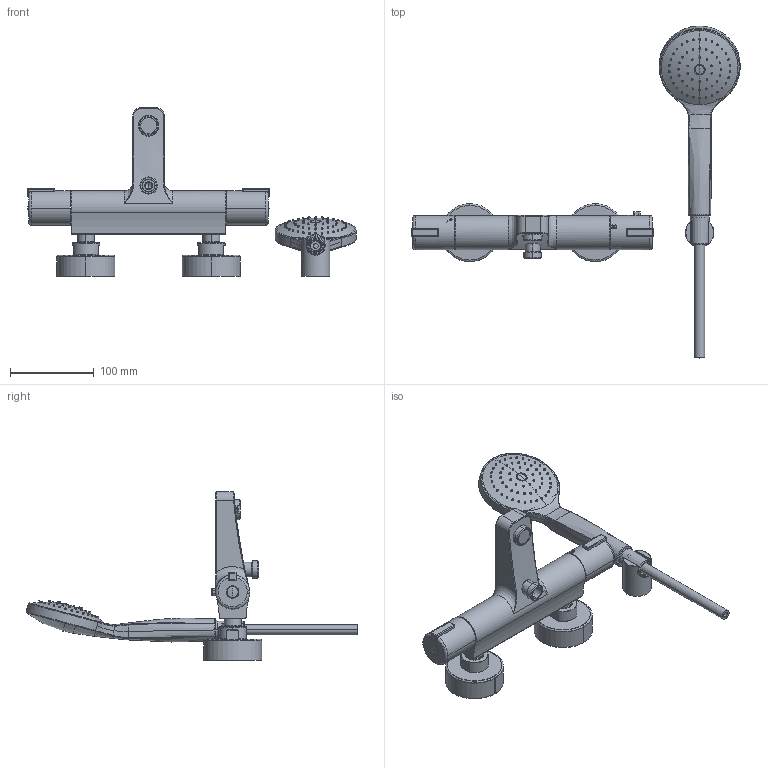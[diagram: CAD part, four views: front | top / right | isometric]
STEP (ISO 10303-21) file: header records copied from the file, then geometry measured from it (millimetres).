
FILE_DESCRIPTION((''),'2;1');
FILE_NAME('F4074_FILE_3D','2020-06-10T',('ivanv'),(''),'CREO PARAMETRIC BY PTC INC, 2016260','CREO PARAMETRIC BY PTC INC, 2016260','');
FILE_SCHEMA(('CONFIG_CONTROL_DESIGN'));
Length unit declared in the file: millimetre
Products named in the file (1): F4074_FILE_3D
Bounding box: 393.05 x 397.38 x 201.5 mm (x, y, z)
Volume: 508892 mm3; surface area: 249164.6 mm2
Topology: 6 solids, 6 shells, 2048 faces, 5023 edges, 3198 vertices
Faces by surface type: cylinder 576, plane 564, extrusion 360, cone 258, torus 114, sphere 89, bspline 87
Entity records: 81072 total; most frequent: CARTESIAN_POINT 34587, ORIENTED_EDGE 10008, DIRECTION 8684, EDGE_CURVE 5004, VERTEX_POINT 3196, AXIS2_PLACEMENT_3D 3177, VECTOR 2330, EDGE_LOOP 2318
